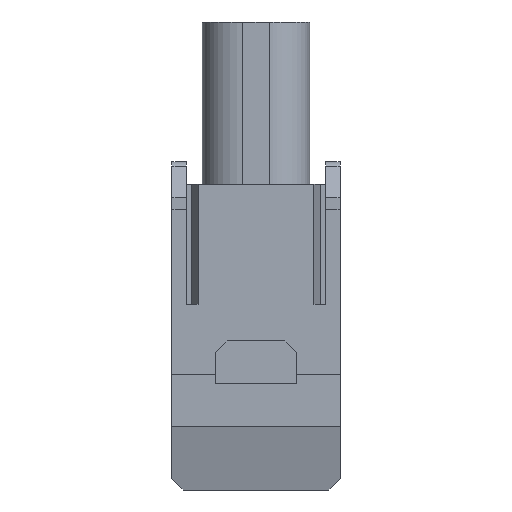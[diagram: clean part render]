
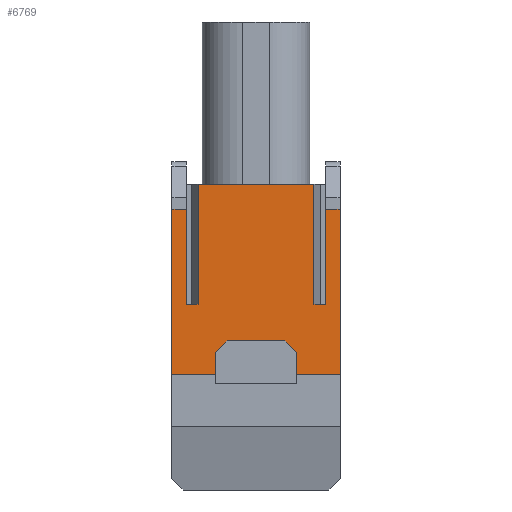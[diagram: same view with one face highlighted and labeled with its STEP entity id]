
A CAD part, left-side view. The second image highlights one B-rep face of the part: STEP entity #6769.
In plain terms, the highlighted planar face has unit normal (-1, 0, 0).
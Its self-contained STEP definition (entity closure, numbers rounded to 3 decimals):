
#90 = CARTESIAN_POINT ( 'NONE',  ( -15.041, 16.4, -2.263 ) ) ;
#160 = ORIENTED_EDGE ( 'NONE', *, *, #3780, .T. ) ;
#170 = DIRECTION ( 'NONE',  ( 0., 0.707, -0.707 ) ) ;
#234 = VERTEX_POINT ( 'NONE', #15723 ) ;
#301 = EDGE_CURVE ( 'NONE', #13576, #4611, #12709, .T. ) ;
#455 = VECTOR ( 'NONE', #7990, 1000. ) ;
#494 = ORIENTED_EDGE ( 'NONE', *, *, #301, .F. ) ;
#522 = CARTESIAN_POINT ( 'NONE',  ( -15.041, 1.68, -16.5 ) ) ;
#581 = LINE ( 'NONE', #9534, #7715 ) ;
#669 = LINE ( 'NONE', #10060, #16680 ) ;
#829 = VERTEX_POINT ( 'NONE', #15939 ) ;
#884 = LINE ( 'NONE', #17121, #15128 ) ;
#1101 = CARTESIAN_POINT ( 'NONE',  ( -15.041, 5.43, -16.5 ) ) ;
#1179 = ORIENTED_EDGE ( 'NONE', *, *, #9121, .F. ) ;
#1226 = DIRECTION ( 'NONE',  ( 0., 1., 0. ) ) ;
#1273 = VERTEX_POINT ( 'NONE', #1749 ) ;
#1327 = DIRECTION ( 'NONE',  ( 0., 0., -1. ) ) ;
#1341 = CARTESIAN_POINT ( 'NONE',  ( -15.041, 3.93, 14.6 ) ) ;
#1379 = CARTESIAN_POINT ( 'NONE',  ( -15.041, 19.08, -1. ) ) ;
#1391 = VECTOR ( 'NONE', #12823, 1000. ) ;
#1528 = EDGE_CURVE ( 'NONE', #3154, #14883, #12873, .T. ) ;
#1725 = EDGE_CURVE ( 'NONE', #8414, #12279, #14824, .T. ) ;
#1742 = VERTEX_POINT ( 'NONE', #10818 ) ;
#1749 = CARTESIAN_POINT ( 'NONE',  ( -15.041, 13.93, -10.5 ) ) ;
#1800 = DIRECTION ( 'NONE',  ( 0., -1., 0. ) ) ;
#1862 = CARTESIAN_POINT ( 'NONE',  ( -15.041, 5.43, -14.65 ) ) ;
#2337 = ORIENTED_EDGE ( 'NONE', *, *, #4319, .F. ) ;
#2457 = DIRECTION ( 'NONE',  ( 0., 1., 0. ) ) ;
#2628 = DIRECTION ( 'NONE',  ( 0., 0., -1. ) ) ;
#2882 = LINE ( 'NONE', #90, #16721 ) ;
#2896 = CARTESIAN_POINT ( 'NONE',  ( -15.041, 12.43, 14.15 ) ) ;
#2937 = CARTESIAN_POINT ( 'NONE',  ( -15.041, 3.93, -16.5 ) ) ;
#2960 = ORIENTED_EDGE ( 'NONE', *, *, #7043, .T. ) ;
#3154 = VERTEX_POINT ( 'NONE', #1862 ) ;
#3213 = VECTOR ( 'NONE', #17502, 1000. ) ;
#3288 = EDGE_CURVE ( 'NONE', #234, #7700, #5969, .T. ) ;
#3356 = CARTESIAN_POINT ( 'NONE',  ( -15.041, 3.93, -0.15 ) ) ;
#3639 = VECTOR ( 'NONE', #1327, 1000. ) ;
#3780 = EDGE_CURVE ( 'NONE', #1742, #829, #16758, .T. ) ;
#4169 = DIRECTION ( 'NONE',  ( 0., 1., 0. ) ) ;
#4267 = CARTESIAN_POINT ( 'NONE',  ( -15.041, -6.22, 4. ) ) ;
#4319 = EDGE_CURVE ( 'NONE', #5973, #6794, #12380, .T. ) ;
#4353 = ORIENTED_EDGE ( 'NONE', *, *, #12977, .F. ) ;
#4443 = VECTOR ( 'NONE', #15968, 1000. ) ;
#4611 = VERTEX_POINT ( 'NONE', #13866 ) ;
#4735 = VECTOR ( 'NONE', #170, 1000. ) ;
#5015 = CARTESIAN_POINT ( 'NONE',  ( -15.041, 13.93, -0.15 ) ) ;
#5234 = ORIENTED_EDGE ( 'NONE', *, *, #6495, .T. ) ;
#5237 = VECTOR ( 'NONE', #7651, 1000. ) ;
#5360 = VECTOR ( 'NONE', #4169, 1000. ) ;
#5613 = ORIENTED_EDGE ( 'NONE', *, *, #8038, .T. ) ;
#5630 = FACE_OUTER_BOUND ( 'NONE', #14763, .T. ) ;
#5712 = DIRECTION ( 'NONE',  ( 0., 1., 0. ) ) ;
#5811 = CARTESIAN_POINT ( 'NONE',  ( -15.041, 14.93, -2.294 ) ) ;
#5969 = LINE ( 'NONE', #6319, #4443 ) ;
#5973 = VERTEX_POINT ( 'NONE', #15911 ) ;
#6319 = CARTESIAN_POINT ( 'NONE',  ( -15.041, 1.46, -2.263 ) ) ;
#6495 = EDGE_CURVE ( 'NONE', #1273, #1742, #884, .T. ) ;
#6769 = ADVANCED_FACE ( 'NONE', ( #5630 ), #15144, .F. ) ;
#6794 = VERTEX_POINT ( 'NONE', #6834 ) ;
#6834 = CARTESIAN_POINT ( 'NONE',  ( -15.041, 12.43, -16.5 ) ) ;
#6922 = LINE ( 'NONE', #4267, #4735 ) ;
#6965 = CARTESIAN_POINT ( 'NONE',  ( -15.041, 2.93, -10.5 ) ) ;
#7043 = EDGE_CURVE ( 'NONE', #3154, #12279, #10367, .T. ) ;
#7055 = EDGE_CURVE ( 'NONE', #15235, #7158, #9939, .T. ) ;
#7158 = VERTEX_POINT ( 'NONE', #16526 ) ;
#7651 = DIRECTION ( 'NONE',  ( 0., 0., 1. ) ) ;
#7700 = VERTEX_POINT ( 'NONE', #15270 ) ;
#7715 = VECTOR ( 'NONE', #1226, 1000. ) ;
#7879 = CARTESIAN_POINT ( 'NONE',  ( -15.041, 16.18, 14.6 ) ) ;
#7990 = DIRECTION ( 'NONE',  ( 0., 0., -1. ) ) ;
#8003 = ORIENTED_EDGE ( 'NONE', *, *, #13286, .F. ) ;
#8038 = EDGE_CURVE ( 'NONE', #11122, #1273, #15081, .T. ) ;
#8281 = CARTESIAN_POINT ( 'NONE',  ( -15.041, 3.93, -10.5 ) ) ;
#8414 = VERTEX_POINT ( 'NONE', #522 ) ;
#8808 = DIRECTION ( 'NONE',  ( 0., 1., 0. ) ) ;
#9019 = ORIENTED_EDGE ( 'NONE', *, *, #1725, .F. ) ;
#9090 = ORIENTED_EDGE ( 'NONE', *, *, #13349, .F. ) ;
#9121 = EDGE_CURVE ( 'NONE', #14883, #13584, #581, .T. ) ;
#9534 = CARTESIAN_POINT ( 'NONE',  ( -15.041, 427.204, -13.65 ) ) ;
#9705 = DIRECTION ( 'NONE',  ( 1., 0., 0. ) ) ;
#9939 = LINE ( 'NONE', #7879, #455 ) ;
#9959 = DIRECTION ( 'NONE',  ( 0., 0., 1. ) ) ;
#10060 = CARTESIAN_POINT ( 'NONE',  ( -15.041, 3.93, -0.15 ) ) ;
#10367 = LINE ( 'NONE', #11963, #13595 ) ;
#10818 = CARTESIAN_POINT ( 'NONE',  ( -15.041, 14.93, -10.5 ) ) ;
#11122 = VERTEX_POINT ( 'NONE', #5015 ) ;
#11165 = CARTESIAN_POINT ( 'NONE',  ( -15.041, 16.18, -2.263 ) ) ;
#11238 = VECTOR ( 'NONE', #2628, 1000. ) ;
#11631 = EDGE_CURVE ( 'NONE', #17602, #234, #11943, .T. ) ;
#11777 = ORIENTED_EDGE ( 'NONE', *, *, #11983, .T. ) ;
#11943 = LINE ( 'NONE', #13056, #5237 ) ;
#11963 = CARTESIAN_POINT ( 'NONE',  ( -15.041, 5.43, -8.95 ) ) ;
#11983 = EDGE_CURVE ( 'NONE', #829, #15235, #2882, .T. ) ;
#12231 = VECTOR ( 'NONE', #2457, 1000. ) ;
#12279 = VERTEX_POINT ( 'NONE', #1101 ) ;
#12331 = LINE ( 'NONE', #2937, #17093 ) ;
#12350 = CARTESIAN_POINT ( 'NONE',  ( -15.041, 3.93, 14.6 ) ) ;
#12380 = LINE ( 'NONE', #2896, #1391 ) ;
#12628 = CARTESIAN_POINT ( 'NONE',  ( -15.041, 6.43, -13.65 ) ) ;
#12709 = LINE ( 'NONE', #12350, #3639 ) ;
#12823 = DIRECTION ( 'NONE',  ( 0., 0., -1. ) ) ;
#12873 = LINE ( 'NONE', #1379, #14207 ) ;
#12977 = EDGE_CURVE ( 'NONE', #11122, #13576, #669, .T. ) ;
#13056 = CARTESIAN_POINT ( 'NONE',  ( -15.041, 2.93, 14.6 ) ) ;
#13239 = ORIENTED_EDGE ( 'NONE', *, *, #17555, .T. ) ;
#13286 = EDGE_CURVE ( 'NONE', #7700, #8414, #13841, .T. ) ;
#13309 = CARTESIAN_POINT ( 'NONE',  ( -15.041, 13.93, 14.6 ) ) ;
#13349 = EDGE_CURVE ( 'NONE', #6794, #7158, #12331, .T. ) ;
#13576 = VERTEX_POINT ( 'NONE', #3356 ) ;
#13584 = VERTEX_POINT ( 'NONE', #14508 ) ;
#13594 = CARTESIAN_POINT ( 'NONE',  ( -15.041, 1.68, 14.6 ) ) ;
#13595 = VECTOR ( 'NONE', #14820, 1000. ) ;
#13630 = ORIENTED_EDGE ( 'NONE', *, *, #1528, .F. ) ;
#13712 = ORIENTED_EDGE ( 'NONE', *, *, #3288, .F. ) ;
#13786 = DIRECTION ( 'NONE',  ( 0., 0.707, 0.707 ) ) ;
#13841 = LINE ( 'NONE', #13594, #11238 ) ;
#13866 = CARTESIAN_POINT ( 'NONE',  ( -15.041, 3.93, -10.5 ) ) ;
#14207 = VECTOR ( 'NONE', #13786, 1000. ) ;
#14336 = EDGE_CURVE ( 'NONE', #13584, #5973, #6922, .T. ) ;
#14374 = ORIENTED_EDGE ( 'NONE', *, *, #14336, .F. ) ;
#14508 = CARTESIAN_POINT ( 'NONE',  ( -15.041, 11.43, -13.65 ) ) ;
#14763 = EDGE_LOOP ( 'NONE', ( #2337, #14374, #1179, #13630, #2960, #9019, #8003, #13712, #16650, #13239, #494, #4353, #5613, #5234, #160, #11777, #16717, #9090 ) ) ;
#14820 = DIRECTION ( 'NONE',  ( 0., 0., -1. ) ) ;
#14824 = LINE ( 'NONE', #16229, #12231 ) ;
#14883 = VERTEX_POINT ( 'NONE', #12628 ) ;
#15081 = LINE ( 'NONE', #13309, #3213 ) ;
#15128 = VECTOR ( 'NONE', #8808, 1000. ) ;
#15144 = PLANE ( 'NONE',  #17647 ) ;
#15210 = DIRECTION ( 'NONE',  ( 0., 1., 0. ) ) ;
#15235 = VERTEX_POINT ( 'NONE', #11165 ) ;
#15237 = DIRECTION ( 'NONE',  ( 0., 1., 0. ) ) ;
#15270 = CARTESIAN_POINT ( 'NONE',  ( -15.041, 1.68, -2.263 ) ) ;
#15723 = CARTESIAN_POINT ( 'NONE',  ( -15.041, 2.93, -2.263 ) ) ;
#15911 = CARTESIAN_POINT ( 'NONE',  ( -15.041, 12.43, -14.65 ) ) ;
#15939 = CARTESIAN_POINT ( 'NONE',  ( -15.041, 14.93, -2.263 ) ) ;
#15968 = DIRECTION ( 'NONE',  ( 0., -1., 0. ) ) ;
#16229 = CARTESIAN_POINT ( 'NONE',  ( -15.041, 3.93, -16.5 ) ) ;
#16312 = VECTOR ( 'NONE', #9959, 1000. ) ;
#16526 = CARTESIAN_POINT ( 'NONE',  ( -15.041, 16.18, -16.5 ) ) ;
#16650 = ORIENTED_EDGE ( 'NONE', *, *, #11631, .F. ) ;
#16680 = VECTOR ( 'NONE', #1800, 1000. ) ;
#16717 = ORIENTED_EDGE ( 'NONE', *, *, #7055, .T. ) ;
#16721 = VECTOR ( 'NONE', #5712, 1000. ) ;
#16758 = LINE ( 'NONE', #5811, #16312 ) ;
#16856 = LINE ( 'NONE', #8281, #5360 ) ;
#17093 = VECTOR ( 'NONE', #15237, 1000. ) ;
#17121 = CARTESIAN_POINT ( 'NONE',  ( -15.041, 3.93, -10.5 ) ) ;
#17502 = DIRECTION ( 'NONE',  ( 0., 0., -1. ) ) ;
#17555 = EDGE_CURVE ( 'NONE', #17602, #4611, #16856, .T. ) ;
#17602 = VERTEX_POINT ( 'NONE', #6965 ) ;
#17647 = AXIS2_PLACEMENT_3D ( 'NONE', #1341, #9705, #15210 ) ;
